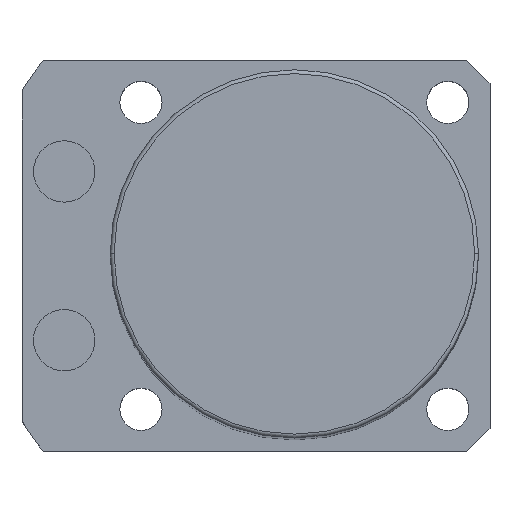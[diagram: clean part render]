
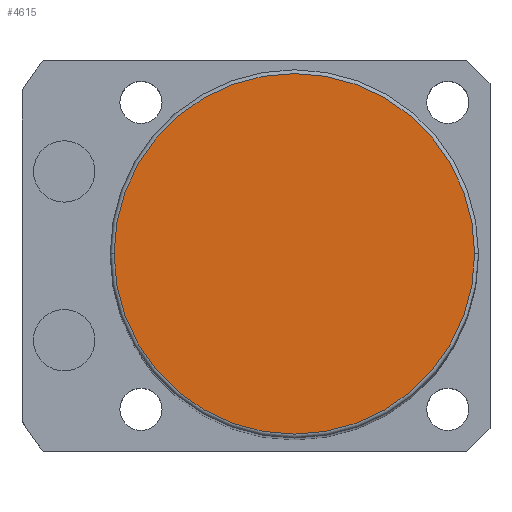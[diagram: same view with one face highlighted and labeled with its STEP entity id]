
A CAD part, top view. The second image highlights one B-rep face of the part: STEP entity #4615.
In plain terms, the highlighted planar face has unit normal (0, 0, 1).
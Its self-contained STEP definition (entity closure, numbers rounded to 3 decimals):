
#110 = AXIS2_PLACEMENT_3D ( 'NONE', #1567, #4597, #537 ) ;
#319 = CARTESIAN_POINT ( 'NONE',  ( 23.5, 0., 161. ) ) ;
#426 = AXIS2_PLACEMENT_3D ( 'NONE', #507, #5022, #3552 ) ;
#507 = CARTESIAN_POINT ( 'NONE',  ( 0., 0., 161. ) ) ;
#537 = DIRECTION ( 'NONE',  ( 1., 0., 0. ) ) ;
#1042 = CIRCLE ( 'NONE', #110, 23.5 ) ;
#1439 = CARTESIAN_POINT ( 'NONE',  ( 0., 0., 161. ) ) ;
#1567 = CARTESIAN_POINT ( 'NONE',  ( 0., 0., 161. ) ) ;
#1601 = CARTESIAN_POINT ( 'NONE',  ( -23.5, 0., 161. ) ) ;
#1977 = EDGE_CURVE ( 'NONE', #4716, #6528, #2054, .T. ) ;
#2054 = CIRCLE ( 'NONE', #426, 23.5 ) ;
#2096 = ORIENTED_EDGE ( 'NONE', *, *, #1977, .T. ) ;
#3552 = DIRECTION ( 'NONE',  ( 1., 0., 0. ) ) ;
#3950 = DIRECTION ( 'NONE',  ( 0., 0., 1. ) ) ;
#4597 = DIRECTION ( 'NONE',  ( 0., 0., 1. ) ) ;
#4615 = ADVANCED_FACE ( 'NONE', ( #4788 ), #4982, .T. ) ;
#4716 = VERTEX_POINT ( 'NONE', #1601 ) ;
#4763 = ORIENTED_EDGE ( 'NONE', *, *, #5969, .T. ) ;
#4788 = FACE_OUTER_BOUND ( 'NONE', #5877, .T. ) ;
#4937 = DIRECTION ( 'NONE',  ( 1., 0., 0. ) ) ;
#4982 = PLANE ( 'NONE',  #5262 ) ;
#5022 = DIRECTION ( 'NONE',  ( 0., 0., 1. ) ) ;
#5262 = AXIS2_PLACEMENT_3D ( 'NONE', #1439, #3950, #4937 ) ;
#5877 = EDGE_LOOP ( 'NONE', ( #4763, #2096 ) ) ;
#5969 = EDGE_CURVE ( 'NONE', #6528, #4716, #1042, .T. ) ;
#6528 = VERTEX_POINT ( 'NONE', #319 ) ;
